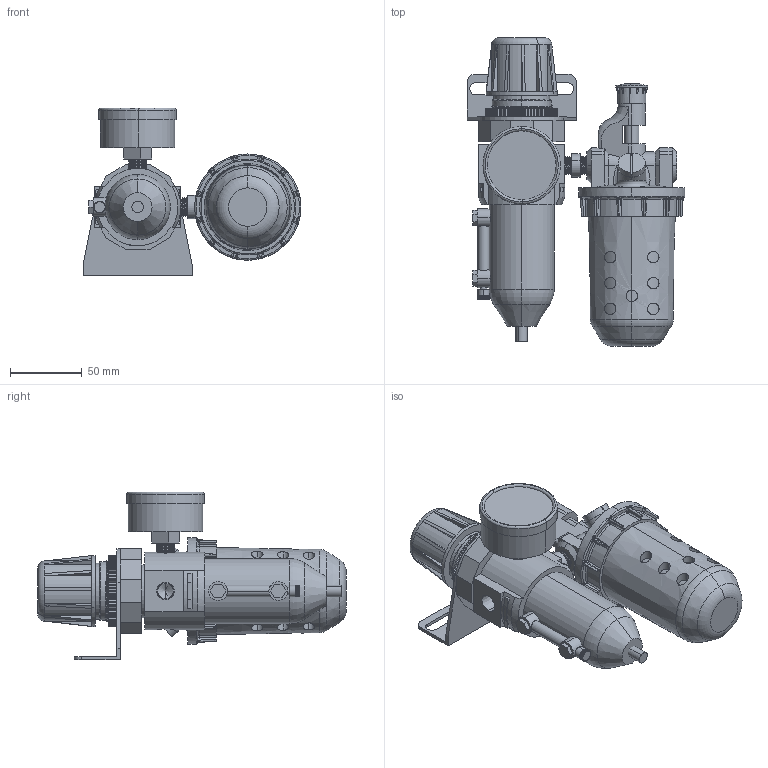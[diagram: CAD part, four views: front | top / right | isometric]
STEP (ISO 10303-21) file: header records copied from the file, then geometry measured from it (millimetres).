
FILE_DESCRIPTION (( 'STEP AP203' ), '1' );
FILE_NAME ('U658-02#YB#.STEP', '2016-01-14T17:17:53', ( '' ), ( '' ), 'SwSTEP 2.0', 'SolidWorks 2014', '' );
FILE_SCHEMA (( 'CONFIG_CONTROL_DESIGN' ));
Length unit declared in the file: millimetre
Products named in the file (23): L606-W-06-3; 1-4-圓; KWSAR10Y57-1; D011W-04-刻度計; KWR10X51; L606-W-06-4; D011W-6; L606-02; D011W-4; R010-上半部; B011W-02#YGB#; 50-P-AD=1-4PT-2; L606-W-06-5; D011W-5; B011W-1; R010-3; U658-02#YB#; L606-W-04-1; 50-P-AD=1-4PT.SLDPRT; KWSAR10Y57; R010-4; 50-P-AD=1-4PT-1
Assembly tree (24 placements, depth 5):
  U658-02#YB#
    B011W-02#YGB#
      B011W-1
      50-P-AD=1-4PT.SLDPRT
        50-P-AD=1-4PT-1
        50-P-AD=1-4PT-2
      L606-W-06-5
      R010-上半部
        R010-3
        R010-4
        KWSAR10Y57
          KWSAR10Y57-1
          KWR10X51
      D011W-04-刻度計
        D011W-5  x2
        D011W-4
        D011W-6
    L606-02
      L606-W-06-4
      L606-W-06-3  x2
      L606-W-04-1
      L606-02
    1-4-圓
Bounding box: 151.75 x 215 x 117 mm (x, y, z)
Volume: 789420 mm3; surface area: 122294.3 mm2
Topology: 18 solids, 18 shells, 1213 faces, 3226 edges, 2053 vertices
Faces by surface type: plane 640, cylinder 287, bspline 113, cone 104, torus 39, sphere 30
Entity records: 52372 total; most frequent: CARTESIAN_POINT 21470, ORIENTED_EDGE 6296, DIRECTION 5565, EDGE_CURVE 3148, VERTEX_POINT 2025, AXIS2_PLACEMENT_3D 1933, LINE 1699, VECTOR 1699
